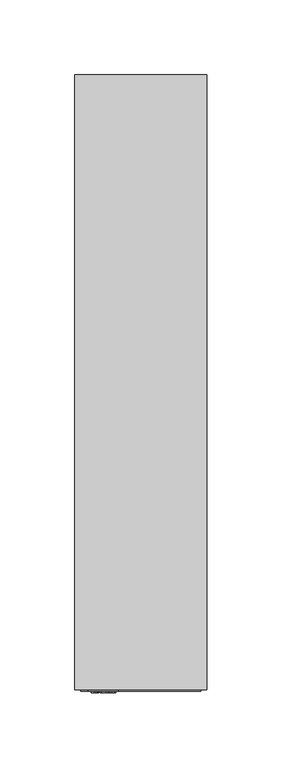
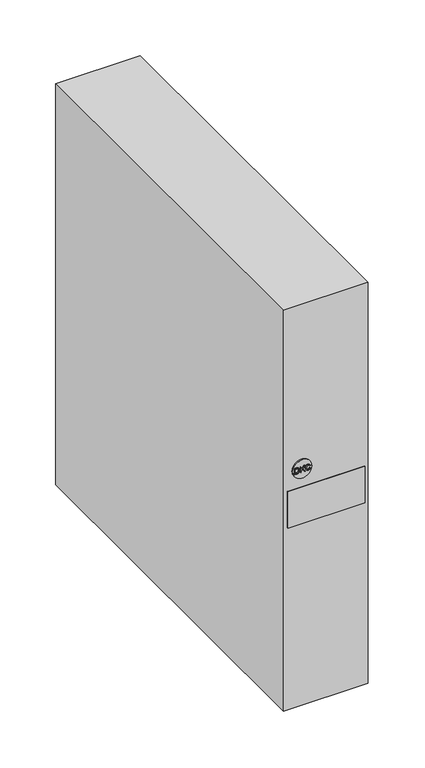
"""IFC4 building model written with IfcOpenShell, lengths in millimetres: proxy geometry, НВО_КНС_БатарейныйБлокBPSMLR_DKC : BPSMLR1-24V."""

from ifc_helpers import new_model, si_unit, point, frame, frame_2d, origin, origin_with_axes, place, context, project, spatial, polyline, circle_curve, trimmed, segment, composite_curve, outline, extrude, source, transform, mapped, element, save


def electrical_equipment_2f6c1f54(model_context):
    return source(origin(), model_context, "Body", "SweptSolid", [
        extrude(outline(polyline([(257.0, -33.1463789), (257.0, -30.967046), (257.103007, -29.9980448), (257.9520786, -28.7273804), (258.829845, -28.3153525), (260.0460629, -28.154956), (261.4793312, -28.391872), (262.5094008, -29.1055631), (262.9405585, -29.9914229), (263.0273786, -31.0671099), (263.0273786, -33.1463789), (257.0, -33.1463789)]), holes=[polyline([(257.7534223, -32.3929566), (262.2739563, -32.3929566), (262.2739563, -31.0803536), (262.153291, -30.0120243), (261.4852173, -29.2299072), (260.0578351, -28.9083783), (258.9181367, -29.0724537), (257.8623154, -30.0900153), (257.7534223, -31.0597522), (257.7534223, -32.3929566)])]), frame((0.0, -2.0, 0.0), z_axis=(0.0, 1.0, 0.0), x_axis=(0.0, 0.0, 1.0)), (0.0, 0.0, 1.0), 6.0),
        extrude(outline(polyline([(257.0, -26.7422891), (259.0719114, -26.365578), (260.0401768, -25.3502237), (257.0, -23.0487539), (257.0, -22.1275774), (260.5493255, -24.816059), (263.0273786, -22.2217552), (263.0273786, -23.2753692), (260.076965, -26.365578), (263.0273786, -27.1190003), (257.0, -26.7422891)])), frame((0.0, -2.0, 0.0), z_axis=(0.0, 1.0, 0.0), x_axis=(0.0, 0.0, 1.0)), (0.0, 0.0, 1.0), 6.0),
        extrude(outline(polyline([(259.1425447, -17.3245101), (258.0330126, -17.963889), (257.6592445, -19.1168311), (257.9336845, -20.1564657), (258.7628905, -20.8642706), (260.0607782, -21.0916217), (261.180611, -20.8995873), (262.0458694, -20.2337209), (262.3681341, -19.055027), (262.0775073, -18.0367296), (261.3307068, -16.6652655), (262.652139, -17.5165445), (263.1215564, -19.0255964), (262.7588248, -20.4735799), (261.6971173, -21.4881985), (260.0593067, -21.845044), (258.4479835, -21.5294013), (257.3016632, -20.6096963), (256.9058222, -19.0417832), (257.4289504, -17.4643052), (259.1425447, -17.3245101)])), frame((0.0, -2.0, 0.0), z_axis=(0.0, 1.0, 0.0), x_axis=(0.0, 0.0, 1.0)), (0.0, 0.0, 1.0), 6.0),
        extrude(outline(composite_curve([segment(trimmed(circle_curve(frame_2d((260.0, -25.0)), 10.0), [point((260.0, -35.0))], [point((260.0, -15.0))], False, "CARTESIAN"), True, "CONTINUOUS"), segment(trimmed(circle_curve(frame_2d((260.0, -25.0)), 10.0), [point((260.0, -15.0))], [point((260.0, -35.0))], False, "CARTESIAN"), True, "CONTINUOUS")], self_intersect=False)), frame((0.0, -1.0, 0.0), z_axis=(0.0, 1.0, 0.0), x_axis=(0.0, 0.0, 1.0)), (0.0, 0.0, 1.0), 10.0),
        extrude(outline(polyline([(44.0, 0.0), (-44.0, 0.0), (-44.0, 410.0), (44.0, 410.0), (44.0, 0.0)])), origin_with_axes(), (0.0, 0.0, 1.0), 440.0),
        extrude(outline(polyline([(40.0, -1.0), (-40.0, -1.0), (-40.0, 0.0), (40.0, 0.0), (40.0, -1.0)])), frame((0.0, 0.0, 200.0), z_axis=(0.0, 0.0, 1.0), x_axis=(1.0, 0.0, 0.0)), (0.0, 0.0, 1.0), 40.0),
    ])


if __name__ == "__main__":
    model = new_model("IFC4")
    model_context = context("Model", 3, world=origin())
    ifc_project = project(units=[si_unit("LENGTHUNIT", "METRE", prefix="MILLI")], contexts=[model_context])
    site = spatial("IfcSite", under=ifc_project)
    building = spatial("IfcBuilding", under=site)
    placement = place(None, origin())
    electrical_equipment_shape = electrical_equipment_2f6c1f54(model_context)
    element("IfcBuildingElementProxy", 1, Name="НВО_КНС_БатарейныйБлокBPSMLR_DKC : BPSMLR1-24V", ObjectType="НВО_КНС_БатарейныйБлокBPSMLR_DKC : BPSMLR1-24V", at=placement, inside=building, context=model_context, shape_type="MappedRepresentation", body=[
        mapped(electrical_equipment_shape, transform((0.0, 0.0, 0.0), x_axis=(1.0, 0.0, 0.0), y_axis=(0.0, 1.0, 0.0), z_axis=(0.0, 0.0, 1.0))),
    ])
    save(model, "model.ifc")
